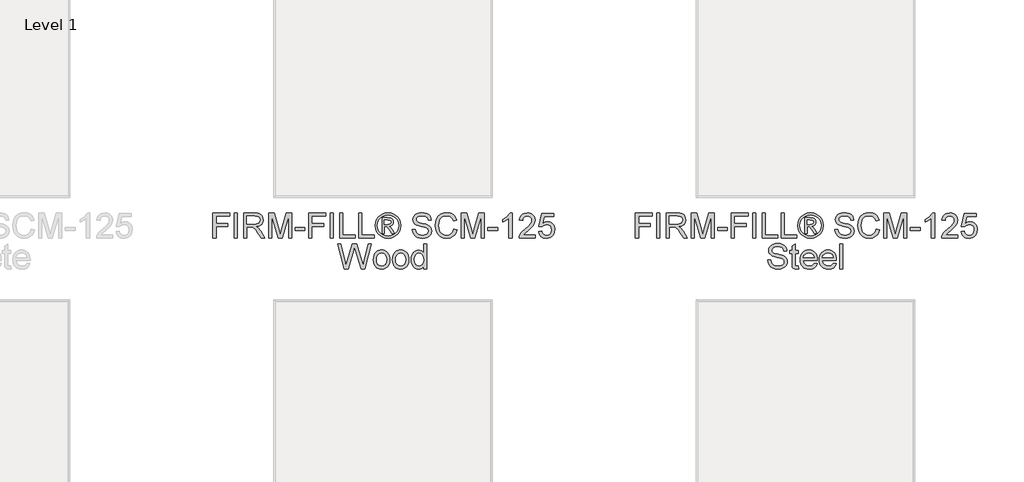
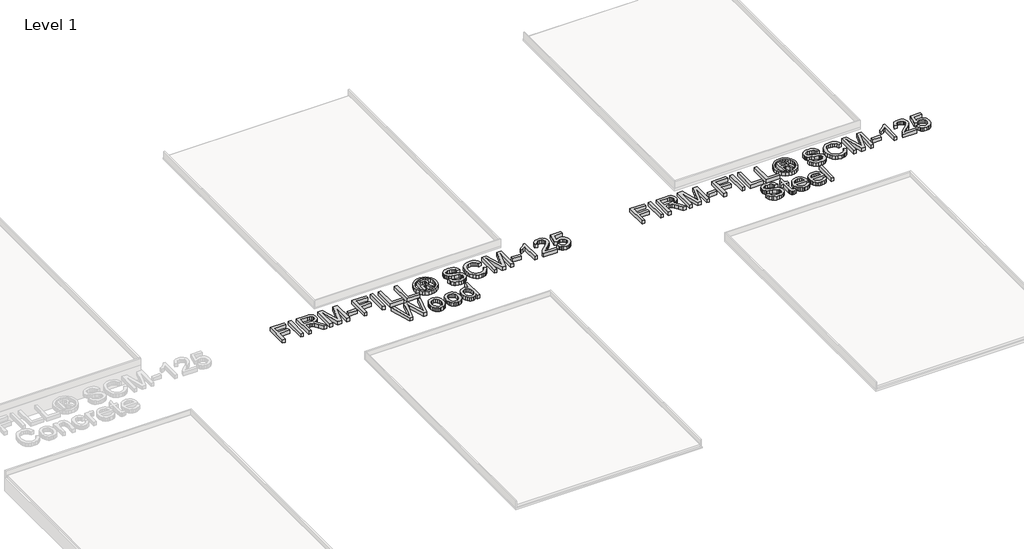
# One storey, part 10 of 10: 2 proxies.
"""IFC4 building model written with IfcOpenShell, lengths in millimetres."""

from ifc_helpers import new_model, si_unit, origin, origin_with_axes, place, context, project, spatial, polyline, outline, extrude, element, save

model = new_model("IFC4")

# Units and contexts
model_context = context("Model", 3, world=origin())
ifc_project = project(units=[si_unit("LENGTHUNIT", "METRE", prefix="MILLI")], contexts=[model_context])

# Site, building, storey
site = spatial("IfcSite", under=ifc_project)
building = spatial("IfcBuilding", under=site)
storey = spatial("IfcBuildingStorey", under=building, Name="Level 1", Elevation=0.0)

# Proxies
placement = place(None, origin())
element("IfcBuildingElementProxy", 1, Name="600mm Arial", ObjectType="600mm Arial", at=placement, inside=storey, context=model_context, shape_type="SweptSolid", body=[
    extrude(outline(polyline([(-312.4048462, -4518.3364307), (-312.4048462, -4218.2256615), (-110.7679231, -4218.2256615), (-110.7679231, -4255.7395076), (-274.891, -4255.7395076), (-274.891, -4344.8348922), (-134.2140769, -4344.8348922), (-134.2140769, -4382.3487384), (-274.891, -4382.3487384), (-274.891, -4518.3364307), (-312.4048462, -4518.3364307)])), origin_with_axes(), (0.0, 0.0, 1.0), 50.8),
    extrude(outline(polyline([(-54.4971539, -4518.3364307), (-54.4971539, -4218.2256615), (-16.9833077, -4218.2256615), (-16.9833077, -4518.3364307), (-54.4971539, -4518.3364307)])), origin_with_axes(), (0.0, 0.0, 1.0), 50.8),
    extrude(outline(polyline([(58.0443846, -4518.3364307), (58.0443846, -4218.2256615), (187.3645769, -4218.2256615), (222.1216682, -4220.249724), (247.4087115, -4226.3219115), (265.890875, -4237.5321038), (280.2333269, -4254.9701807), (289.437774, -4276.5937624), (292.5059231, -4300.3604692), (287.4228702, -4329.9246038), (272.1737115, -4354.4331615), (260.6223594, -4364.4206735), (246.3005144, -4372.4024403), (209.3453461, -4382.3487384), (230.6666923, -4398.3946999), (261.0734231, -4437.0075846), (311.1163077, -4518.3364307), (267.5211154, -4518.3364307), (228.4686154, -4456.1308538), (200.2599615, -4414.9535461), (180.4406346, -4395.5005653), (162.5995769, -4388.3568153), (140.8386154, -4387.0379692), (95.5582307, -4387.0379692), (95.5582307, -4518.3364307), (58.0443846, -4518.3364307)]), holes=[polyline([(95.5582307, -4349.524123), (179.5247692, -4349.524123), (203.6395048, -4348.1961182), (222.3506346, -4344.2121038), (236.4366442, -4337.3064788), (246.6760192, -4327.2136422), (252.9130625, -4315.0051567), (254.9920769, -4301.7525846), (251.0263798, -4283.4535942), (239.1292884, -4268.7081615), (218.6596971, -4258.9816711), (188.9765, -4255.7395076), (95.5582307, -4255.7395076), (95.5582307, -4349.524123)])]), origin_with_axes(), (0.0, 0.0, 1.0), 50.8),
    extrude(outline(polyline([(358.1551538, -4518.3364307), (358.1551538, -4218.2256615), (422.7053461, -4218.2256615), (484.1049615, -4429.7539307), (496.4874615, -4473.9352769), (509.8957307, -4426.0904692), (570.2695769, -4218.2256615), (634.8197692, -4218.2256615), (634.8197692, -4518.3364307), (597.3059231, -4518.3364307), (597.3059231, -4255.7395076), (521.9118846, -4518.3364307), (471.0630384, -4518.3364307), (395.669, -4255.7395076), (395.669, -4518.3364307), (358.1551538, -4518.3364307)])), origin_with_axes(), (0.0, 0.0, 1.0), 50.8),
    extrude(outline(polyline([(677.0228461, -4429.2410461), (677.0228461, -4391.7271999), (794.2536154, -4391.7271999), (794.2536154, -4429.2410461), (677.0228461, -4429.2410461)])), origin_with_axes(), (0.0, 0.0, 1.0), 50.8),
    extrude(outline(polyline([(841.1459231, -4518.3364307), (841.1459231, -4218.2256615), (1042.7828461, -4218.2256615), (1042.7828461, -4255.7395076), (878.6597692, -4255.7395076), (878.6597692, -4344.8348922), (1019.3366923, -4344.8348922), (1019.3366923, -4382.3487384), (878.6597692, -4382.3487384), (878.6597692, -4518.3364307), (841.1459231, -4518.3364307)])), origin_with_axes(), (0.0, 0.0, 1.0), 50.8),
    extrude(outline(polyline([(1099.0536154, -4518.3364307), (1099.0536154, -4218.2256615), (1136.5674615, -4218.2256615), (1136.5674615, -4518.3364307), (1099.0536154, -4518.3364307)])), origin_with_axes(), (0.0, 0.0, 1.0), 50.8),
    extrude(outline(polyline([(1211.5951538, -4518.3364307), (1211.5951538, -4218.2256615), (1249.109, -4218.2256615), (1249.109, -4480.8225846), (1399.1643846, -4480.8225846), (1399.1643846, -4518.3364307), (1211.5951538, -4518.3364307)])), origin_with_axes(), (0.0, 0.0, 1.0), 50.8),
    extrude(outline(polyline([(1441.3674615, -4518.3364307), (1441.3674615, -4218.2256615), (1478.8813077, -4218.2256615), (1478.8813077, -4480.8225846), (1628.9366923, -4480.8225846), (1628.9366923, -4518.3364307), (1441.3674615, -4518.3364307)])), origin_with_axes(), (0.0, 0.0, 1.0), 50.8),
    extrude(outline(polyline([(1722.7213077, -4462.0656615), (1722.7213077, -4274.4964307), (1783.3149615, -4274.4964307), (1810.0948654, -4275.7878009), (1828.3022692, -4279.6619115), (1840.8038317, -4286.7507096), (1850.4662115, -4297.6861422), (1856.6483029, -4310.9570317), (1858.709, -4325.0521999), (1855.1554423, -4344.1754692), (1844.4947692, -4360.6610461), (1827.9725577, -4372.4940269), (1806.8343846, -4377.6595076), (1821.4882307, -4387.624123), (1847.0591923, -4425.0646999), (1868.0874615, -4462.0656615), (1836.4351538, -4462.0656615), (1819.9495769, -4432.3183538), (1792.3270769, -4389.2360461), (1782.2342404, -4383.814123), (1768.3680384, -4382.3487384), (1750.8566923, -4382.3487384), (1750.8566923, -4462.0656615), (1722.7213077, -4462.0656615)]), holes=[polyline([(1750.8566923, -4354.2133538), (1786.4655384, -4354.2133538), (1807.9151057, -4352.4274163), (1821.2684231, -4347.0696038), (1828.2473173, -4338.7627047), (1830.5736154, -4328.1295076), (1826.1041923, -4314.5014307), (1813.6850577, -4305.5625846), (1784.1941923, -4302.6318153), (1750.8566923, -4302.6318153), (1750.8566923, -4354.2133538)])]), origin_with_axes(), (0.0, 0.0, 1.0), 50.8),
    extrude(outline(polyline([(1793.1330384, -4213.5364307), (1831.6543365, -4218.5370557), (1869.2597692, -4233.5389307), (1902.2950336, -4257.845998), (1927.1058269, -4290.7621999), (1942.6297452, -4328.7706134), (1947.8043846, -4368.3543153), (1942.7030144, -4407.5899884), (1927.3989038, -4445.2870076), (1902.8903461, -4478.0841471), (1870.1756346, -4502.6201807), (1832.5060913, -4517.9242913), (1793.1330384, -4523.0256615), (1753.8149375, -4517.9242913), (1716.1637115, -4502.6201807), (1683.421524, -4478.0841471), (1658.8305384, -4445.2870076), (1643.444, -4407.5899884), (1638.3151538, -4368.3543153), (1643.5172692, -4328.7706134), (1659.1236154, -4290.7621999), (1684.0168365, -4257.845998), (1717.0795769, -4233.5389307), (1754.6666923, -4218.5370557), (1793.1330384, -4213.5364307)]), holes=[polyline([(1793.1330384, -4241.6718153), (1761.6089519, -4245.7657336), (1730.9274615, -4258.0474884), (1703.9552259, -4277.9492432), (1683.5589038, -4304.9031615), (1670.7276298, -4336.0059499), (1666.4505384, -4368.3543153), (1670.6452019, -4400.4920317), (1683.2291923, -4431.2559499), (1703.3599134, -4458.0083778), (1730.1947692, -4478.111623), (1761.0227981, -4490.6956134), (1793.1330384, -4494.8902769), (1825.2890721, -4490.6956134), (1856.1079423, -4478.111623), (1882.8970048, -4458.0083778), (1902.9636154, -4431.2559499), (1915.4926538, -4400.4920317), (1919.669, -4368.3543153), (1915.4193846, -4336.0059499), (1902.6705384, -4304.9031615), (1882.3291682, -4277.9492432), (1855.3019807, -4258.0474884), (1824.5746971, -4245.7657336), (1793.1330384, -4241.6718153)])]), origin_with_axes(), (0.0, 0.0, 1.0), 50.8),
    extrude(outline(polyline([(2083.7920769, -4415.1733538), (2121.3059231, -4415.1733538), (2125.6104904, -4435.990974), (2133.3953461, -4452.7238346), (2145.5397211, -4466.0038826), (2162.9228461, -4476.4630653), (2184.1709231, -4483.2496278), (2207.9101538, -4485.5118153), (2228.8102019, -4483.7991471), (2247.1091923, -4478.6611422), (2261.9370529, -4470.5282576), (2272.4237115, -4459.8309499), (2278.6607548, -4447.5491951), (2280.7397692, -4434.6629692), (2279.1827981, -4422.1064547), (2274.5118846, -4411.2534499), (2265.0235192, -4401.9940509), (2249.0141923, -4394.2183538), (2194.3919807, -4379.8942192), (2158.5358509, -4370.4150124), (2135.5934231, -4361.3937384), (2116.9189279, -4348.7731134), (2103.6846731, -4333.4781615), (2095.7990721, -4315.8385942), (2093.1705384, -4296.184123), (2096.4218606, -4274.2125124), (2106.1758269, -4253.7246038), (2122.1759952, -4236.3597961), (2144.1659231, -4223.7574884), (2170.5611634, -4216.0916951), (2199.7772692, -4213.5364307), (2231.4295769, -4216.2107576), (2259.1253461, -4224.2337384), (2281.8754423, -4237.4405172), (2298.6907307, -4255.6662384), (2309.3330865, -4277.7752288), (2313.5643846, -4302.6318153), (2276.0505384, -4302.6318153), (2269.1632307, -4280.2480653), (2254.8024615, -4264.0921999), (2232.3637596, -4254.3107576), (2201.2426538, -4251.0502769), (2169.3888557, -4254.274123), (2147.5363077, -4263.9456615), (2134.8973654, -4278.1782096), (2130.6843846, -4295.0850846), (2133.6701057, -4309.5008057), (2142.6272692, -4321.0956615), (2163.8020769, -4331.4632576), (2203.8803461, -4342.0506615), (2245.2408269, -4352.1068634), (2270.2622692, -4360.8808538), (2291.6477259, -4374.4906134), (2306.5671731, -4391.2875846), (2315.3320048, -4411.0885942), (2318.2536154, -4433.7104692), (2314.8923894, -4456.8360701), (2304.8087115, -4478.587873), (2288.4147211, -4497.3081615), (2266.1225577, -4511.3392192), (2239.3151779, -4520.1040509), (2209.3755384, -4523.0256615), (2172.6218606, -4519.8750846), (2142.3708269, -4510.4233538), (2118.2744086, -4494.6338346), (2099.9845769, -4472.4698922), (2088.2431827, -4445.4701807), (2083.7920769, -4415.1733538)])), origin_with_axes(), (0.0, 0.0, 1.0), 50.8),
    extrude(outline(polyline([(2585.5397692, -4411.6564307), (2623.0536154, -4421.3279692), (2615.6305264, -4444.6573502), (2605.7437596, -4465.042224), (2593.3933149, -4482.4825906), (2578.5791923, -4496.9784499), (2561.6356827, -4508.374105), (2542.8970769, -4516.5138586), (2522.363375, -4521.3977108), (2500.0345769, -4523.0256615), (2456.5218125, -4518.0983057), (2421.9662115, -4503.3162384), (2395.4793846, -4479.1923442), (2376.1729423, -4446.2395076), (2364.3857548, -4407.4984019), (2360.4566923, -4366.0096999), (2364.8986394, -4322.2496519), (2378.2244807, -4284.4610461), (2399.7381586, -4253.8436663), (2428.7436154, -4231.5972961), (2463.1435192, -4218.0516471), (2500.8405384, -4213.5364307), (2541.9720529, -4219.3796519), (2559.8657728, -4226.6836783), (2575.9781346, -4236.9093153), (2590.0435372, -4249.7863826), (2601.7963798, -4265.0446999), (2618.3643846, -4302.7050846), (2580.8505384, -4311.6439307), (2567.84525, -4284.2870317), (2550.0774615, -4265.5209499), (2527.3273654, -4254.6679451), (2499.3751538, -4251.0502769), (2467.1550096, -4255.0617672), (2440.6865, -4267.0962384), (2420.6015721, -4285.8897961), (2407.5321731, -4310.1785461), (2400.3609471, -4337.6361903), (2397.9705384, -4365.9364307), (2400.8005625, -4400.5927769), (2409.2906346, -4430.5598922), (2423.7613077, -4454.6929451), (2444.5331346, -4471.8471038), (2469.4355144, -4482.0956374), (2496.2978461, -4485.5118153), (2527.6112836, -4480.8592192), (2553.7042884, -4466.9014307), (2573.4045529, -4443.7849884), (2585.5397692, -4411.6564307)])), origin_with_axes(), (0.0, 0.0, 1.0), 50.8),
    extrude(outline(polyline([(2674.6351538, -4518.3364307), (2674.6351538, -4218.2256615), (2739.1853461, -4218.2256615), (2800.5849615, -4429.7539307), (2812.9674615, -4473.9352769), (2826.3757307, -4426.0904692), (2886.7495769, -4218.2256615), (2951.2997692, -4218.2256615), (2951.2997692, -4518.3364307), (2913.7859231, -4518.3364307), (2913.7859231, -4255.7395076), (2838.3918846, -4518.3364307), (2787.5430384, -4518.3364307), (2712.149, -4255.7395076), (2712.149, -4518.3364307), (2674.6351538, -4518.3364307)])), origin_with_axes(), (0.0, 0.0, 1.0), 50.8),
    extrude(outline(polyline([(2993.5028461, -4429.2410461), (2993.5028461, -4391.7271999), (3110.7336154, -4391.7271999), (3110.7336154, -4429.2410461), (2993.5028461, -4429.2410461)])), origin_with_axes(), (0.0, 0.0, 1.0), 50.8),
    extrude(outline(polyline([(3284.2351538, -4518.3364307), (3246.7213077, -4518.3364307), (3246.7213077, -4284.4610461), (3211.1857307, -4309.7755653), (3171.6936154, -4328.7156615), (3171.6936154, -4293.2533538), (3201.1570048, -4277.2257096), (3226.6821731, -4258.1573922), (3246.8037356, -4237.8801326), (3260.0563077, -4218.2256615), (3284.2351538, -4218.2256615), (3284.2351538, -4518.3364307)])), origin_with_axes(), (0.0, 0.0, 1.0), 50.8),
    extrude(outline(polyline([(3565.589, -4480.8225846), (3565.589, -4518.3364307), (3368.6413077, -4518.3364307), (3372.6711154, -4492.4723922), (3381.9213557, -4472.2592432), (3395.4578461, -4452.6505653), (3415.0390481, -4432.1260221), (3442.4234231, -4409.1652769), (3482.9046731, -4373.2084019), (3507.1934231, -4346.666623), (3519.3377981, -4325.1254692), (3523.3859231, -4304.1704692), (3519.5667644, -4285.3860701), (3508.1092884, -4269.7705653), (3490.4971971, -4259.2472721), (3468.2141923, -4255.7395076), (3444.8138317, -4259.1648442), (3426.6339038, -4269.4408538), (3414.9016682, -4285.7615749), (3410.8443846, -4307.3210461), (3373.3305384, -4302.6318153), (3382.4250817, -4266.3452288), (3390.9357608, -4251.8699764), (3402.0887115, -4239.8400846), (3415.6274916, -4230.3837745), (3431.2956586, -4223.6292672), (3469.0201538, -4218.2256615), (3489.1256887, -4219.7276807), (3507.0194086, -4224.2337384), (3522.7013137, -4231.7438346), (3536.1714038, -4242.2579692), (3546.9900637, -4254.9976567), (3554.7176779, -4269.1844115), (3559.3542464, -4284.8182336), (3560.8997692, -4301.899123), (3559.2328942, -4319.8409259), (3554.2322692, -4337.4713346), (3545.3575336, -4355.4039788), (3532.0683269, -4374.2524884), (3510.8843606, -4396.7553009), (3478.3253461, -4425.6508538), (3435.1697692, -4461.7359499), (3418.2445769, -4480.8225846), (3565.589, -4480.8225846)])), origin_with_axes(), (0.0, 0.0, 1.0), 50.8),
    extrude(outline(polyline([(3603.1028461, -4438.6195076), (3640.6166923, -4433.9302769), (3647.504, -4456.4514067), (3659.5201538, -4472.5797961), (3676.6102019, -4482.2788105), (3698.7191923, -4485.5118153), (3725.609, -4481.0149163), (3745.7580384, -4467.5242192), (3758.3420288, -4446.5966951), (3762.5366923, -4419.7893153), (3758.6076298, -4394.5480653), (3746.8204423, -4375.241623), (3727.0835432, -4362.9873442), (3699.3053461, -4358.9025846), (3681.1071009, -4360.5328249), (3666.3708269, -4365.4235461), (3645.3059231, -4382.3487384), (3607.7920769, -4377.6595076), (3640.6166923, -4222.9148922), (3785.9828461, -4222.9148922), (3785.9828461, -4260.4287384), (3670.9501538, -4260.4287384), (3654.9041923, -4343.0764307), (3681.7024134, -4326.8106615), (3709.7828461, -4321.3887384), (3728.0520709, -4323.0693514), (3744.8330144, -4328.1111903), (3760.1256767, -4336.5142552), (3773.9300577, -4348.2785461), (3785.357768, -4362.6851086), (3793.5204182, -4379.0149884), (3798.4180084, -4397.2681855), (3800.0505384, -4417.4446999), (3794.1706827, -4454.9585461), (3786.820863, -4471.682248), (3776.5311154, -4487.0504692), (3760.9430865, -4502.7896158), (3742.754, -4514.0318634), (3721.9638557, -4520.777212), (3698.5726538, -4523.0256615), (3661.7273894, -4517.2465509), (3646.1141743, -4510.0226627), (3632.3739038, -4499.9092192), (3620.9416142, -4487.4099463), (3612.2523413, -4473.0285701), (3603.1028461, -4438.6195076)])), origin_with_axes(), (0.0, 0.0, 1.0), 50.8),
    extrude(outline(polyline([(1267.6461154, -4888.7856615), (1185.8043846, -4588.6748922), (1224.4905384, -4588.6748922), (1271.969, -4785.9156615), (1286.6228461, -4846.8023922), (1302.3024615, -4792.9495076), (1361.7970769, -4588.6748922), (1417.5549615, -4588.6748922), (1460.7838077, -4736.7520076), (1479.3026057, -4791.7039307), (1492.949, -4846.8023922), (1507.1632307, -4787.674123), (1555.0813077, -4588.6748922), (1593.7674615, -4588.6748922), (1511.8524615, -4888.7856615), (1471.7741923, -4888.7856615), (1399.8238077, -4657.2548922), (1389.7859231, -4624.9431615), (1378.5024615, -4663.849123), (1312.9265, -4888.7856615), (1267.6461154, -4888.7856615)])), origin_with_axes(), (0.0, 0.0, 1.0), 50.8),
    extrude(outline(polyline([(1617.2136154, -4778.5887384), (1619.2422572, -4750.0457937), (1625.3281827, -4725.4502288), (1635.4713918, -4704.8020437), (1649.6718846, -4688.1012384), (1663.9685432, -4677.4268273), (1679.7489038, -4669.802248), (1697.0129663, -4665.2275004), (1715.7607307, -4663.7025846), (1736.4569988, -4665.5595016), (1755.1704182, -4671.1302528), (1771.9009892, -4680.4148382), (1786.6487115, -4693.4132576), (1798.6854723, -4709.6858959), (1807.2831586, -4728.7931374), (1812.4417704, -4750.7349824), (1814.1613077, -4775.5114307), (1811.1206346, -4813.4099403), (1801.9986154, -4842.2596999), (1787.0608509, -4863.8649644), (1766.5729423, -4880.0299884), (1742.238399, -4890.1136663), (1715.7607307, -4893.4748922), (1694.7622271, -4891.6248442), (1675.8747932, -4886.0746999), (1659.0984291, -4876.8244596), (1644.4331346, -4863.874123), (1632.5245949, -4847.443498), (1624.0184952, -4827.7523922), (1618.9148353, -4804.8008057), (1617.2136154, -4778.5887384)]), holes=[polyline([(1654.7274615, -4778.5154692), (1659.0686634, -4812.466599), (1672.0922692, -4836.6546038), (1691.6917884, -4851.1344355), (1715.7607307, -4855.9610461), (1739.7197692, -4851.1069596), (1759.2826538, -4836.5446999), (1772.3062596, -4812.0361422), (1776.6474615, -4777.3431615), (1772.2787836, -4744.3811663), (1759.17275, -4720.522873), (1739.5823894, -4706.0430413), (1715.7607307, -4701.2164307), (1691.6917884, -4706.024724), (1672.0922692, -4720.4496038), (1659.0686634, -4744.5826567), (1654.7274615, -4778.5154692)])]), origin_with_axes(), (0.0, 0.0, 1.0), 50.8),
    extrude(outline(polyline([(1846.9859231, -4778.5887384), (1849.0145649, -4750.0457937), (1855.1004904, -4725.4502288), (1865.2436995, -4704.8020437), (1879.4441923, -4688.1012384), (1893.7408509, -4677.4268273), (1909.5212115, -4669.802248), (1926.785274, -4665.2275004), (1945.5330384, -4663.7025846), (1966.2293065, -4665.5595016), (1984.9427259, -4671.1302528), (2001.6732969, -4680.4148382), (2016.4210192, -4693.4132576), (2028.45778, -4709.6858959), (2037.0554663, -4728.7931374), (2042.2140781, -4750.7349824), (2043.9336154, -4775.5114307), (2040.8929423, -4813.4099403), (2031.7709231, -4842.2596999), (2016.8331586, -4863.8649644), (1996.34525, -4880.0299884), (1972.0107067, -4890.1136663), (1945.5330384, -4893.4748922), (1924.5345348, -4891.6248442), (1905.6471009, -4886.0746999), (1888.8707368, -4876.8244596), (1874.2054423, -4863.874123), (1862.2969026, -4847.443498), (1853.7908029, -4827.7523922), (1848.687143, -4804.8008057), (1846.9859231, -4778.5887384)]), holes=[polyline([(1884.4997692, -4778.5154692), (1888.8409711, -4812.466599), (1901.8645769, -4836.6546038), (1921.4640961, -4851.1344355), (1945.5330384, -4855.9610461), (1969.4920769, -4851.1069596), (1989.0549615, -4836.5446999), (2002.0785673, -4812.0361422), (2006.4197692, -4777.3431615), (2002.0510913, -4744.3811663), (1988.9450577, -4720.522873), (1969.3546971, -4706.0430413), (1945.5330384, -4701.2164307), (1921.4640961, -4706.024724), (1901.8645769, -4720.4496038), (1888.8409711, -4744.5826567), (1884.4997692, -4778.5154692)])]), origin_with_axes(), (0.0, 0.0, 1.0), 50.8),
    extrude(outline(polyline([(2222.1243846, -4888.7856615), (2222.1243846, -4853.396623), (2210.9004543, -4870.9308658), (2197.3044327, -4883.4553249), (2181.3363197, -4890.9700004), (2162.9961154, -4893.4748922), (2138.744, -4889.8480653), (2116.5434231, -4878.9675846), (2097.7498654, -4861.5936182), (2083.7188077, -4838.4863346), (2074.9814519, -4810.5799163), (2072.069, -4778.8085461), (2074.7524856, -4747.430998), (2082.8029423, -4719.094123), (2096.2112115, -4695.4098442), (2114.9681346, -4677.9900846), (2137.6541202, -4667.2744596), (2162.8495769, -4663.7025846), (2181.2035192, -4666.257849), (2197.4326538, -4673.9236422), (2211.1889519, -4685.6741951), (2222.1243846, -4700.4837384), (2222.1243846, -4588.6748922), (2259.6382307, -4588.6748922), (2259.6382307, -4888.7856615), (2222.1243846, -4888.7856615)]), holes=[polyline([(2109.5828461, -4778.6620076), (2113.8141442, -4812.5948201), (2126.5080384, -4836.727873), (2144.9535673, -4851.1527528), (2166.4397692, -4855.9610461), (2187.9168125, -4851.3725605), (2205.89525, -4837.6071038), (2218.0671009, -4814.4082336), (2222.1243846, -4781.5195076), (2217.9938317, -4745.5626326), (2205.6021731, -4720.6327769), (2187.1658029, -4706.0705172), (2164.9011154, -4701.2164307), (2143.1951057, -4705.8781855), (2125.409, -4719.8634499), (2113.5393846, -4743.886599), (2109.5828461, -4778.6620076)])]), origin_with_axes(), (0.0, 0.0, 1.0), 50.8),
])
element("IfcBuildingElementProxy", 2, Name="600mm Arial", ObjectType="600mm Arial", at=placement, inside=storey, context=model_context, shape_type="SweptSolid", body=[
    extrude(outline(polyline([(4767.5951538, -4518.3364307), (4767.5951538, -4218.2256615), (4969.2320769, -4218.2256615), (4969.2320769, -4255.7395076), (4805.109, -4255.7395076), (4805.109, -4344.8348922), (4945.7859231, -4344.8348922), (4945.7859231, -4382.3487384), (4805.109, -4382.3487384), (4805.109, -4518.3364307), (4767.5951538, -4518.3364307)])), origin_with_axes(), (0.0, 0.0, 1.0), 50.8),
    extrude(outline(polyline([(5025.5028461, -4518.3364307), (5025.5028461, -4218.2256615), (5063.0166923, -4218.2256615), (5063.0166923, -4518.3364307), (5025.5028461, -4518.3364307)])), origin_with_axes(), (0.0, 0.0, 1.0), 50.8),
    extrude(outline(polyline([(5138.0443846, -4518.3364307), (5138.0443846, -4218.2256615), (5267.3645769, -4218.2256615), (5302.1216682, -4220.249724), (5327.4087115, -4226.3219115), (5345.890875, -4237.5321038), (5360.2333269, -4254.9701807), (5369.437774, -4276.5937624), (5372.5059231, -4300.3604692), (5367.4228702, -4329.9246038), (5352.1737115, -4354.4331615), (5340.6223594, -4364.4206735), (5326.3005144, -4372.4024403), (5289.3453461, -4382.3487384), (5310.6666923, -4398.3946999), (5341.0734231, -4437.0075846), (5391.1163077, -4518.3364307), (5347.5211154, -4518.3364307), (5308.4686154, -4456.1308538), (5280.2599615, -4414.9535461), (5260.4406346, -4395.5005653), (5242.5995769, -4388.3568153), (5220.8386154, -4387.0379692), (5175.5582307, -4387.0379692), (5175.5582307, -4518.3364307), (5138.0443846, -4518.3364307)]), holes=[polyline([(5175.5582307, -4349.524123), (5259.5247692, -4349.524123), (5283.6395048, -4348.1961182), (5302.3506346, -4344.2121038), (5316.4366442, -4337.3064788), (5326.6760192, -4327.2136422), (5332.9130625, -4315.0051567), (5334.9920769, -4301.7525846), (5331.0263798, -4283.4535942), (5319.1292884, -4268.7081615), (5298.6596971, -4258.9816711), (5268.9765, -4255.7395076), (5175.5582307, -4255.7395076), (5175.5582307, -4349.524123)])]), origin_with_axes(), (0.0, 0.0, 1.0), 50.8),
    extrude(outline(polyline([(5438.1551538, -4518.3364307), (5438.1551538, -4218.2256615), (5502.7053461, -4218.2256615), (5564.1049615, -4429.7539307), (5576.4874615, -4473.9352769), (5589.8957307, -4426.0904692), (5650.2695769, -4218.2256615), (5714.8197692, -4218.2256615), (5714.8197692, -4518.3364307), (5677.3059231, -4518.3364307), (5677.3059231, -4255.7395076), (5601.9118846, -4518.3364307), (5551.0630384, -4518.3364307), (5475.669, -4255.7395076), (5475.669, -4518.3364307), (5438.1551538, -4518.3364307)])), origin_with_axes(), (0.0, 0.0, 1.0), 50.8),
    extrude(outline(polyline([(5757.0228461, -4429.2410461), (5757.0228461, -4391.7271999), (5874.2536154, -4391.7271999), (5874.2536154, -4429.2410461), (5757.0228461, -4429.2410461)])), origin_with_axes(), (0.0, 0.0, 1.0), 50.8),
    extrude(outline(polyline([(5921.1459231, -4518.3364307), (5921.1459231, -4218.2256615), (6122.7828461, -4218.2256615), (6122.7828461, -4255.7395076), (5958.6597692, -4255.7395076), (5958.6597692, -4344.8348922), (6099.3366923, -4344.8348922), (6099.3366923, -4382.3487384), (5958.6597692, -4382.3487384), (5958.6597692, -4518.3364307), (5921.1459231, -4518.3364307)])), origin_with_axes(), (0.0, 0.0, 1.0), 50.8),
    extrude(outline(polyline([(6179.0536154, -4518.3364307), (6179.0536154, -4218.2256615), (6216.5674615, -4218.2256615), (6216.5674615, -4518.3364307), (6179.0536154, -4518.3364307)])), origin_with_axes(), (0.0, 0.0, 1.0), 50.8),
    extrude(outline(polyline([(6291.5951538, -4518.3364307), (6291.5951538, -4218.2256615), (6329.109, -4218.2256615), (6329.109, -4480.8225846), (6479.1643846, -4480.8225846), (6479.1643846, -4518.3364307), (6291.5951538, -4518.3364307)])), origin_with_axes(), (0.0, 0.0, 1.0), 50.8),
    extrude(outline(polyline([(6521.3674615, -4518.3364307), (6521.3674615, -4218.2256615), (6558.8813077, -4218.2256615), (6558.8813077, -4480.8225846), (6708.9366923, -4480.8225846), (6708.9366923, -4518.3364307), (6521.3674615, -4518.3364307)])), origin_with_axes(), (0.0, 0.0, 1.0), 50.8),
    extrude(outline(polyline([(6802.7213077, -4462.0656615), (6802.7213077, -4274.4964307), (6863.3149615, -4274.4964307), (6890.0948654, -4275.7878009), (6908.3022692, -4279.6619115), (6920.8038317, -4286.7507096), (6930.4662115, -4297.6861422), (6936.6483029, -4310.9570317), (6938.709, -4325.0521999), (6935.1554423, -4344.1754692), (6924.4947692, -4360.6610461), (6907.9725577, -4372.4940269), (6886.8343846, -4377.6595076), (6901.4882307, -4387.624123), (6927.0591923, -4425.0646999), (6948.0874615, -4462.0656615), (6916.4351538, -4462.0656615), (6899.9495769, -4432.3183538), (6872.3270769, -4389.2360461), (6862.2342404, -4383.814123), (6848.3680384, -4382.3487384), (6830.8566923, -4382.3487384), (6830.8566923, -4462.0656615), (6802.7213077, -4462.0656615)]), holes=[polyline([(6830.8566923, -4354.2133538), (6866.4655384, -4354.2133538), (6887.9151057, -4352.4274163), (6901.2684231, -4347.0696038), (6908.2473173, -4338.7627047), (6910.5736154, -4328.1295076), (6906.1041923, -4314.5014307), (6893.6850577, -4305.5625846), (6864.1941923, -4302.6318153), (6830.8566923, -4302.6318153), (6830.8566923, -4354.2133538)])]), origin_with_axes(), (0.0, 0.0, 1.0), 50.8),
    extrude(outline(polyline([(6873.1330384, -4213.5364307), (6911.6543365, -4218.5370557), (6949.2597692, -4233.5389307), (6982.2950336, -4257.845998), (7007.1058269, -4290.7621999), (7022.6297452, -4328.7706134), (7027.8043846, -4368.3543153), (7022.7030144, -4407.5899884), (7007.3989038, -4445.2870076), (6982.8903461, -4478.0841471), (6950.1756346, -4502.6201807), (6912.5060913, -4517.9242913), (6873.1330384, -4523.0256615), (6833.8149375, -4517.9242913), (6796.1637115, -4502.6201807), (6763.421524, -4478.0841471), (6738.8305384, -4445.2870076), (6723.444, -4407.5899884), (6718.3151538, -4368.3543153), (6723.5172692, -4328.7706134), (6739.1236154, -4290.7621999), (6764.0168365, -4257.845998), (6797.0795769, -4233.5389307), (6834.6666923, -4218.5370557), (6873.1330384, -4213.5364307)]), holes=[polyline([(6873.1330384, -4241.6718153), (6841.6089519, -4245.7657336), (6810.9274615, -4258.0474884), (6783.9552259, -4277.9492432), (6763.5589038, -4304.9031615), (6750.7276298, -4336.0059499), (6746.4505384, -4368.3543153), (6750.6452019, -4400.4920317), (6763.2291923, -4431.2559499), (6783.3599134, -4458.0083778), (6810.1947692, -4478.111623), (6841.0227981, -4490.6956134), (6873.1330384, -4494.8902769), (6905.2890721, -4490.6956134), (6936.1079423, -4478.111623), (6962.8970048, -4458.0083778), (6982.9636154, -4431.2559499), (6995.4926538, -4400.4920317), (6999.669, -4368.3543153), (6995.4193846, -4336.0059499), (6982.6705384, -4304.9031615), (6962.3291682, -4277.9492432), (6935.3019807, -4258.0474884), (6904.5746971, -4245.7657336), (6873.1330384, -4241.6718153)])]), origin_with_axes(), (0.0, 0.0, 1.0), 50.8),
    extrude(outline(polyline([(7163.7920769, -4415.1733538), (7201.3059231, -4415.1733538), (7205.6104904, -4435.990974), (7213.3953461, -4452.7238346), (7225.5397211, -4466.0038826), (7242.9228461, -4476.4630653), (7264.1709231, -4483.2496278), (7287.9101538, -4485.5118153), (7308.8102019, -4483.7991471), (7327.1091923, -4478.6611422), (7341.9370529, -4470.5282576), (7352.4237115, -4459.8309499), (7358.6607548, -4447.5491951), (7360.7397692, -4434.6629692), (7359.1827981, -4422.1064547), (7354.5118846, -4411.2534499), (7345.0235192, -4401.9940509), (7329.0141923, -4394.2183538), (7274.3919807, -4379.8942192), (7238.5358509, -4370.4150124), (7215.5934231, -4361.3937384), (7196.9189279, -4348.7731134), (7183.6846731, -4333.4781615), (7175.7990721, -4315.8385942), (7173.1705384, -4296.184123), (7176.4218606, -4274.2125124), (7186.1758269, -4253.7246038), (7202.1759952, -4236.3597961), (7224.1659231, -4223.7574884), (7250.5611634, -4216.0916951), (7279.7772692, -4213.5364307), (7311.4295769, -4216.2107576), (7339.1253461, -4224.2337384), (7361.8754423, -4237.4405172), (7378.6907307, -4255.6662384), (7389.3330865, -4277.7752288), (7393.5643846, -4302.6318153), (7356.0505384, -4302.6318153), (7349.1632307, -4280.2480653), (7334.8024615, -4264.0921999), (7312.3637596, -4254.3107576), (7281.2426538, -4251.0502769), (7249.3888557, -4254.274123), (7227.5363077, -4263.9456615), (7214.8973654, -4278.1782096), (7210.6843846, -4295.0850846), (7213.6701057, -4309.5008057), (7222.6272692, -4321.0956615), (7243.8020769, -4331.4632576), (7283.8803461, -4342.0506615), (7325.2408269, -4352.1068634), (7350.2622692, -4360.8808538), (7371.6477259, -4374.4906134), (7386.5671731, -4391.2875846), (7395.3320048, -4411.0885942), (7398.2536154, -4433.7104692), (7394.8923894, -4456.8360701), (7384.8087115, -4478.587873), (7368.4147211, -4497.3081615), (7346.1225577, -4511.3392192), (7319.3151779, -4520.1040509), (7289.3755384, -4523.0256615), (7252.6218606, -4519.8750846), (7222.3708269, -4510.4233538), (7198.2744086, -4494.6338346), (7179.9845769, -4472.4698922), (7168.2431827, -4445.4701807), (7163.7920769, -4415.1733538)])), origin_with_axes(), (0.0, 0.0, 1.0), 50.8),
    extrude(outline(polyline([(7665.5397692, -4411.6564307), (7703.0536154, -4421.3279692), (7695.6305264, -4444.6573502), (7685.7437596, -4465.042224), (7673.3933149, -4482.4825906), (7658.5791923, -4496.9784499), (7641.6356827, -4508.374105), (7622.8970769, -4516.5138586), (7602.363375, -4521.3977108), (7580.0345769, -4523.0256615), (7536.5218125, -4518.0983057), (7501.9662115, -4503.3162384), (7475.4793846, -4479.1923442), (7456.1729423, -4446.2395076), (7444.3857548, -4407.4984019), (7440.4566923, -4366.0096999), (7444.8986394, -4322.2496519), (7458.2244807, -4284.4610461), (7479.7381586, -4253.8436663), (7508.7436154, -4231.5972961), (7543.1435192, -4218.0516471), (7580.8405384, -4213.5364307), (7621.9720529, -4219.3796519), (7639.8657728, -4226.6836783), (7655.9781346, -4236.9093153), (7670.0435372, -4249.7863826), (7681.7963798, -4265.0446999), (7698.3643846, -4302.7050846), (7660.8505384, -4311.6439307), (7647.84525, -4284.2870317), (7630.0774615, -4265.5209499), (7607.3273654, -4254.6679451), (7579.3751538, -4251.0502769), (7547.1550096, -4255.0617672), (7520.6865, -4267.0962384), (7500.6015721, -4285.8897961), (7487.5321731, -4310.1785461), (7480.3609471, -4337.6361903), (7477.9705384, -4365.9364307), (7480.8005625, -4400.5927769), (7489.2906346, -4430.5598922), (7503.7613077, -4454.6929451), (7524.5331346, -4471.8471038), (7549.4355144, -4482.0956374), (7576.2978461, -4485.5118153), (7607.6112836, -4480.8592192), (7633.7042884, -4466.9014307), (7653.4045529, -4443.7849884), (7665.5397692, -4411.6564307)])), origin_with_axes(), (0.0, 0.0, 1.0), 50.8),
    extrude(outline(polyline([(7754.6351538, -4518.3364307), (7754.6351538, -4218.2256615), (7819.1853461, -4218.2256615), (7880.5849615, -4429.7539307), (7892.9674615, -4473.9352769), (7906.3757307, -4426.0904692), (7966.7495769, -4218.2256615), (8031.2997692, -4218.2256615), (8031.2997692, -4518.3364307), (7993.7859231, -4518.3364307), (7993.7859231, -4255.7395076), (7918.3918846, -4518.3364307), (7867.5430384, -4518.3364307), (7792.149, -4255.7395076), (7792.149, -4518.3364307), (7754.6351538, -4518.3364307)])), origin_with_axes(), (0.0, 0.0, 1.0), 50.8),
    extrude(outline(polyline([(8073.5028461, -4429.2410461), (8073.5028461, -4391.7271999), (8190.7336154, -4391.7271999), (8190.7336154, -4429.2410461), (8073.5028461, -4429.2410461)])), origin_with_axes(), (0.0, 0.0, 1.0), 50.8),
    extrude(outline(polyline([(8364.2351538, -4518.3364307), (8326.7213077, -4518.3364307), (8326.7213077, -4284.4610461), (8291.1857307, -4309.7755653), (8251.6936154, -4328.7156615), (8251.6936154, -4293.2533538), (8281.1570048, -4277.2257096), (8306.6821731, -4258.1573922), (8326.8037356, -4237.8801326), (8340.0563077, -4218.2256615), (8364.2351538, -4218.2256615), (8364.2351538, -4518.3364307)])), origin_with_axes(), (0.0, 0.0, 1.0), 50.8),
    extrude(outline(polyline([(8645.589, -4480.8225846), (8645.589, -4518.3364307), (8448.6413077, -4518.3364307), (8452.6711154, -4492.4723922), (8461.9213557, -4472.2592432), (8475.4578461, -4452.6505653), (8495.0390481, -4432.1260221), (8522.4234231, -4409.1652769), (8562.9046731, -4373.2084019), (8587.1934231, -4346.666623), (8599.3377981, -4325.1254692), (8603.3859231, -4304.1704692), (8599.5667644, -4285.3860701), (8588.1092884, -4269.7705653), (8570.4971971, -4259.2472721), (8548.2141923, -4255.7395076), (8524.8138317, -4259.1648442), (8506.6339038, -4269.4408538), (8494.9016682, -4285.7615749), (8490.8443846, -4307.3210461), (8453.3305384, -4302.6318153), (8462.4250817, -4266.3452288), (8470.9357608, -4251.8699764), (8482.0887115, -4239.8400846), (8495.6274916, -4230.3837745), (8511.2956586, -4223.6292672), (8549.0201538, -4218.2256615), (8569.1256887, -4219.7276807), (8587.0194086, -4224.2337384), (8602.7013137, -4231.7438346), (8616.1714038, -4242.2579692), (8626.9900637, -4254.9976567), (8634.7176779, -4269.1844115), (8639.3542464, -4284.8182336), (8640.8997692, -4301.899123), (8639.2328942, -4319.8409259), (8634.2322692, -4337.4713346), (8625.3575336, -4355.4039788), (8612.0683269, -4374.2524884), (8590.8843606, -4396.7553009), (8558.3253461, -4425.6508538), (8515.1697692, -4461.7359499), (8498.2445769, -4480.8225846), (8645.589, -4480.8225846)])), origin_with_axes(), (0.0, 0.0, 1.0), 50.8),
    extrude(outline(polyline([(8683.1028461, -4438.6195076), (8720.6166923, -4433.9302769), (8727.504, -4456.4514067), (8739.5201538, -4472.5797961), (8756.6102019, -4482.2788105), (8778.7191923, -4485.5118153), (8805.609, -4481.0149163), (8825.7580384, -4467.5242192), (8838.3420288, -4446.5966951), (8842.5366923, -4419.7893153), (8838.6076298, -4394.5480653), (8826.8204423, -4375.241623), (8807.0835432, -4362.9873442), (8779.3053461, -4358.9025846), (8761.1071009, -4360.5328249), (8746.3708269, -4365.4235461), (8725.3059231, -4382.3487384), (8687.7920769, -4377.6595076), (8720.6166923, -4222.9148922), (8865.9828461, -4222.9148922), (8865.9828461, -4260.4287384), (8750.9501538, -4260.4287384), (8734.9041923, -4343.0764307), (8761.7024134, -4326.8106615), (8789.7828461, -4321.3887384), (8808.0520709, -4323.0693514), (8824.8330144, -4328.1111903), (8840.1256767, -4336.5142552), (8853.9300577, -4348.2785461), (8865.357768, -4362.6851086), (8873.5204182, -4379.0149884), (8878.4180084, -4397.2681855), (8880.0505384, -4417.4446999), (8874.1706827, -4454.9585461), (8866.820863, -4471.682248), (8856.5311154, -4487.0504692), (8840.9430865, -4502.7896158), (8822.754, -4514.0318634), (8801.9638557, -4520.777212), (8778.5726538, -4523.0256615), (8741.7273894, -4517.2465509), (8726.1141743, -4510.0226627), (8712.3739038, -4499.9092192), (8700.9416142, -4487.4099463), (8692.2523413, -4473.0285701), (8683.1028461, -4438.6195076)])), origin_with_axes(), (0.0, 0.0, 1.0), 50.8),
    extrude(outline(polyline([(6359.589, -4785.6225846), (6397.1028461, -4785.6225846), (6401.4074134, -4806.4402047), (6409.1922692, -4823.1730653), (6421.3366442, -4836.4531134), (6438.7197692, -4846.9122961), (6459.9678461, -4853.6988586), (6483.7070769, -4855.9610461), (6504.607125, -4854.2483778), (6522.9061154, -4849.110373), (6537.7339759, -4840.9774884), (6548.2206346, -4830.2801807), (6554.4576779, -4817.9984259), (6556.5366923, -4805.1121999), (6554.9797211, -4792.5556855), (6550.3088077, -4781.7026807), (6540.8204423, -4772.4432817), (6524.8111154, -4764.6675846), (6470.1889038, -4750.3434499), (6434.332774, -4740.8642432), (6411.3903461, -4731.8429692), (6392.7158509, -4719.2223442), (6379.4815961, -4703.9273922), (6371.5959952, -4686.2878249), (6368.9674615, -4666.6333538), (6372.2187836, -4644.6617432), (6381.97275, -4624.1738346), (6397.9729182, -4606.8090269), (6419.9628461, -4594.2067192), (6446.3580865, -4586.5409259), (6475.5741923, -4583.9856615), (6507.2265, -4586.6599884), (6534.9222692, -4594.6829692), (6557.6723654, -4607.889748), (6574.4876538, -4626.1154692), (6585.1300096, -4648.2244596), (6589.3613077, -4673.0810461), (6551.8474615, -4673.0810461), (6544.9601538, -4650.6972961), (6530.5993846, -4634.5414307), (6508.1606827, -4624.7599884), (6477.0395769, -4621.4995076), (6445.1857788, -4624.7233538), (6423.3332307, -4634.3948922), (6410.6942884, -4648.6274403), (6406.4813077, -4665.5343153), (6409.4670288, -4679.9500365), (6418.4241923, -4691.5448922), (6439.599, -4701.9124884), (6479.6772692, -4712.4998922), (6521.03775, -4722.5560942), (6546.0591923, -4731.3300846), (6567.444649, -4744.9398442), (6582.3640961, -4761.7368153), (6591.1289279, -4781.5378249), (6594.0505384, -4804.1596999), (6590.6893125, -4827.2853009), (6580.6056346, -4849.0371038), (6564.2116442, -4867.7573922), (6541.9194807, -4881.7884499), (6515.1121009, -4890.5532817), (6485.1724615, -4893.4748922), (6448.4187836, -4890.3243153), (6418.16775, -4880.8725846), (6394.0713317, -4865.0830653), (6375.7815, -4842.919123), (6364.0401057, -4815.9194115), (6359.589, -4785.6225846)])), origin_with_axes(), (0.0, 0.0, 1.0), 50.8),
    extrude(outline(polyline([(6725.349, -4857.4996999), (6730.0382307, -4889.8846999), (6701.9761154, -4893.4748922), (6683.9702019, -4891.9179211), (6670.5436154, -4887.2470076), (6661.05525, -4880.0483057), (6654.864, -4870.9079692), (6651.4569807, -4855.2100365), (6650.3213077, -4828.3385461), (6650.3213077, -4705.9056615), (6622.1859231, -4705.9056615), (6622.1859231, -4668.3918153), (6650.3213077, -4668.3918153), (6650.3213077, -4614.8320076), (6687.8351538, -4592.7779692), (6687.8351538, -4668.3918153), (6725.349, -4668.3918153), (6725.349, -4705.9056615), (6687.8351538, -4705.9056615), (6687.8351538, -4827.2395076), (6689.8134231, -4846.5825846), (6696.2244807, -4853.4332576), (6709.0099615, -4855.9610461), (6725.349, -4857.4996999)])), origin_with_axes(), (0.0, 0.0, 1.0), 50.8),
    extrude(outline(polyline([(6917.1678461, -4823.1364307), (6953.949, -4827.8256615), (6940.6964279, -4855.539748), (6919.5490961, -4876.256623), (6890.9832548, -4889.1703249), (6855.4751538, -4893.4748922), (6832.1984351, -4891.6179752), (6811.4586634, -4886.047224), (6793.2558389, -4876.7626386), (6777.5899615, -4863.7642192), (6764.9922331, -4847.4137324), (6755.9938557, -4828.0729451), (6750.5948293, -4805.7418574), (6748.7951538, -4780.4204692), (6750.6131466, -4754.2404572), (6756.067125, -4731.1652288), (6765.1570889, -4711.1947841), (6777.8830384, -4694.329123), (6793.5077019, -4680.9300124), (6811.2938077, -4671.3592192), (6831.2413557, -4665.6167432), (6853.3503461, -4663.7025846), (6874.7472512, -4665.6121639), (6894.0971971, -4671.3409019), (6911.4001839, -4680.8887985), (6926.6562115, -4694.2558538), (6939.1096911, -4711.0848802), (6948.0050336, -4731.0186903), (6953.3422392, -4754.0572841), (6955.1213077, -4780.2006615), (6954.9015, -4790.3118153), (6786.309, -4790.3118153), (6792.8024856, -4818.392248), (6807.8867884, -4839.0358538), (6829.6569086, -4851.729748), (6856.2078461, -4855.9610461), (6876.1737115, -4854.0010942), (6892.989, -4848.1212384), (6906.6537115, -4837.9551326), (6917.1678461, -4823.1364307)]), holes=[polyline([(6786.309, -4752.7979692), (6917.6074615, -4752.7979692), (6912.5335673, -4732.9786422), (6902.5872692, -4718.8010461), (6880.7164038, -4705.6125846), (6853.2038077, -4701.2164307), (6827.9167644, -4704.7241951), (6807.0075577, -4715.2474884), (6792.472774, -4731.6506374), (6786.309, -4752.7979692)])]), origin_with_axes(), (0.0, 0.0, 1.0), 50.8),
    extrude(outline(polyline([(7146.9401538, -4823.1364307), (7183.7213077, -4827.8256615), (7170.4687356, -4855.539748), (7149.3214038, -4876.256623), (7120.7555625, -4889.1703249), (7085.2474615, -4893.4748922), (7061.9707428, -4891.6179752), (7041.2309711, -4886.047224), (7023.0281466, -4876.7626386), (7007.3622692, -4863.7642192), (6994.7645408, -4847.4137324), (6985.7661634, -4828.0729451), (6980.367137, -4805.7418574), (6978.5674615, -4780.4204692), (6980.3854543, -4754.2404572), (6985.8394327, -4731.1652288), (6994.9293966, -4711.1947841), (7007.6553461, -4694.329123), (7023.2800096, -4680.9300124), (7041.0661154, -4671.3592192), (7061.0136634, -4665.6167432), (7083.1226538, -4663.7025846), (7104.5195589, -4665.6121639), (7123.8695048, -4671.3409019), (7141.1724916, -4680.8887985), (7156.4285192, -4694.2558538), (7168.8819988, -4711.0848802), (7177.7773413, -4731.0186903), (7183.1145469, -4754.0572841), (7184.8936154, -4780.2006615), (7184.6738077, -4790.3118153), (7016.0813077, -4790.3118153), (7022.5747932, -4818.392248), (7037.6590961, -4839.0358538), (7059.4292163, -4851.729748), (7085.9801538, -4855.9610461), (7105.9460192, -4854.0010942), (7122.7613077, -4848.1212384), (7136.4260192, -4837.9551326), (7146.9401538, -4823.1364307)]), holes=[polyline([(7016.0813077, -4752.7979692), (7147.3797692, -4752.7979692), (7142.305875, -4732.9786422), (7132.3595769, -4718.8010461), (7110.4887115, -4705.6125846), (7082.9761154, -4701.2164307), (7057.6890721, -4704.7241951), (7036.7798654, -4715.2474884), (7022.2450817, -4731.6506374), (7016.0813077, -4752.7979692)])]), origin_with_axes(), (0.0, 0.0, 1.0), 50.8),
    extrude(outline(polyline([(7222.4074615, -4888.7856615), (7222.4074615, -4588.6748922), (7259.9213077, -4588.6748922), (7259.9213077, -4888.7856615), (7222.4074615, -4888.7856615)])), origin_with_axes(), (0.0, 0.0, 1.0), 50.8),
])

save(model, "model.ifc")
